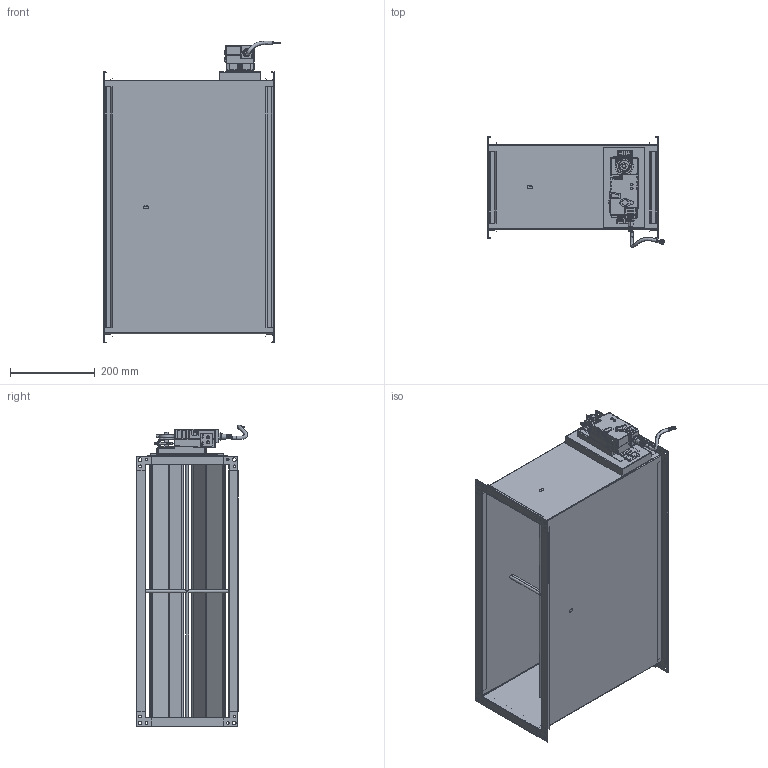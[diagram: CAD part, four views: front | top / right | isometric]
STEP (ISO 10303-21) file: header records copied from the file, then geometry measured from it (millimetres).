
FILE_DESCRIPTION (( 'STEP AP214' ), '1' );
FILE_NAME ('VAV-S600200.STEP', '2025-05-08T11:34:07', ( '' ), ( '' ), 'SwSTEP 2.0', 'SolidWorks 2025', '' );
FILE_SCHEMA (( 'AUTOMOTIVE_DESIGN' ));
Length unit declared in the file: millimetre
Products named in the file (1): VAV-S600200
Bounding box: 419.58 x 263.7 x 713.69 mm (x, y, z)
Surface area: 2256459.4 mm2 (no closed solid volume)
Topology: 0 solids, 48 shells, 2034 faces, 5293 edges, 3364 vertices
Faces by surface type: plane 1515, cylinder 466, bspline 24, sphere 18, cone 10, torus 1
Full cylindrical faces by diameter (mm): 1 x4, 6 x17, 8 x1, 9 x8, 11 x1, 20 x1, 21 x2
Entity records: 89908 total; most frequent: CARTESIAN_POINT 41266, ORIENTED_EDGE 10369, DIRECTION 6536, EDGE_CURVE 5208, VERTEX_POINT 3337, B_SPLINE_CURVE_WITH_KNOTS 3170, AXIS2_PLACEMENT_3D 2499, EDGE_LOOP 2234
